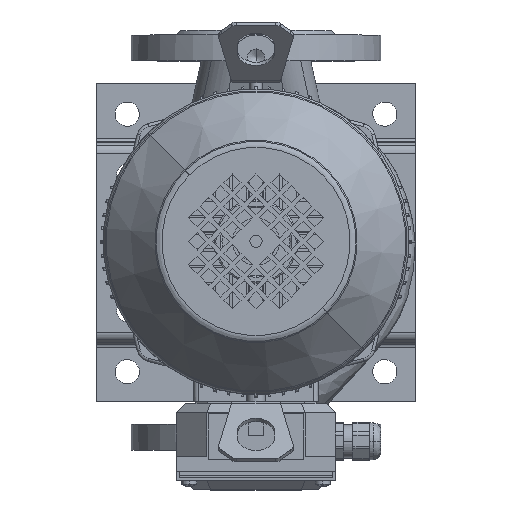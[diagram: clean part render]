
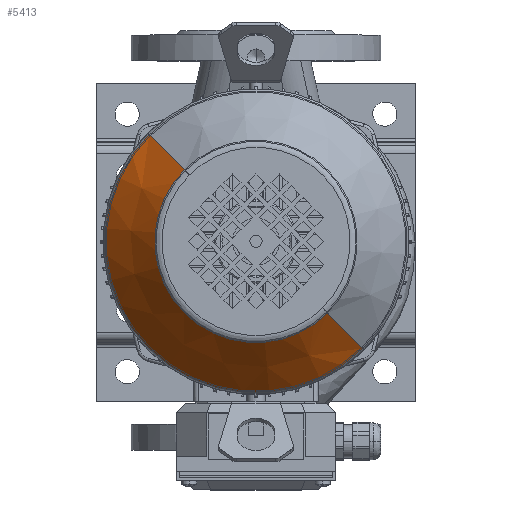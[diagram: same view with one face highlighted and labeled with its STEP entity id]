
A CAD part, top view. The second image highlights one B-rep face of the part: STEP entity #5413.
In plain terms, the highlighted conical face has half-angle 38.66 degrees and reference radius 65 mm.
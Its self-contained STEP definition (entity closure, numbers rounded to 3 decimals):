
#5413=ADVANCED_FACE('NONE',(#13182),#13183,.T.);
#13182=FACE_OUTER_BOUND('',#24384,.T.);
#13183=CONICAL_SURFACE('',#24385,65.0,0.675);
#24384=EDGE_LOOP('',(#40238,#40239,#40240,#40241));
#24385=AXIS2_PLACEMENT_3D('',#40242,#40243,#40244);
#40238=ORIENTED_EDGE('',*,*,#47482,.T.);
#40239=ORIENTED_EDGE('',*,*,#47533,.T.);
#40240=ORIENTED_EDGE('',*,*,#47484,.T.);
#40241=ORIENTED_EDGE('',*,*,#47535,.T.);
#40242=CARTESIAN_POINT('',(0.0,110.0,0.0));
#40243=DIRECTION('',(-0.0,-1.0,-0.0));
#40244=DIRECTION('',(0.0,0.0,-1.0));
#47482=EDGE_CURVE('',#58271,#58272,#58273,.T.);
#47484=EDGE_CURVE('',#58276,#58274,#58277,.T.);
#47533=EDGE_CURVE('NONE',#58272,#58276,#58358,.T.);
#47535=EDGE_CURVE('NONE',#58274,#58271,#58360,.T.);
#58271=VERTEX_POINT('',#78375);
#58272=VERTEX_POINT('NONE',#78376);
#58273=LINE('',#78377,#78378);
#58274=VERTEX_POINT('NONE',#78379);
#58276=VERTEX_POINT('',#78381);
#58277=LINE('',#78382,#78383);
#58358=CIRCLE('',#78732,99.685);
#58360=CIRCLE('',#78734,66.801);
#78375=CARTESIAN_POINT('',(0.,107.748,-66.801));
#78376=CARTESIAN_POINT('',(0.0,66.643,-99.685));
#78377=CARTESIAN_POINT('',(0.,110.0,-65.0));
#78378=VECTOR('',#87900,1.0);
#78379=CARTESIAN_POINT('',(0.,107.748,66.801));
#78381=CARTESIAN_POINT('',(0.,66.643,99.685));
#78382=CARTESIAN_POINT('',(0.,110.0,65.0));
#78383=VECTOR('',#87904,1.0);
#78732=AXIS2_PLACEMENT_3D('',#87981,#87982,#87983);
#78734=AXIS2_PLACEMENT_3D('',#87987,#87988,#87989);
#87900=DIRECTION('',(0.,-0.781,-0.625));
#87904=DIRECTION('',(0.,0.781,-0.625));
#87981=CARTESIAN_POINT('',(0.0,66.643,0.0));
#87982=DIRECTION('',(-0.0,1.0,0.0));
#87983=DIRECTION('',(0.0,0.0,1.0));
#87987=CARTESIAN_POINT('',(0.0,107.748,0.0));
#87988=DIRECTION('',(0.0,-1.0,0.0));
#87989=DIRECTION('',(0.0,0.0,1.0));
